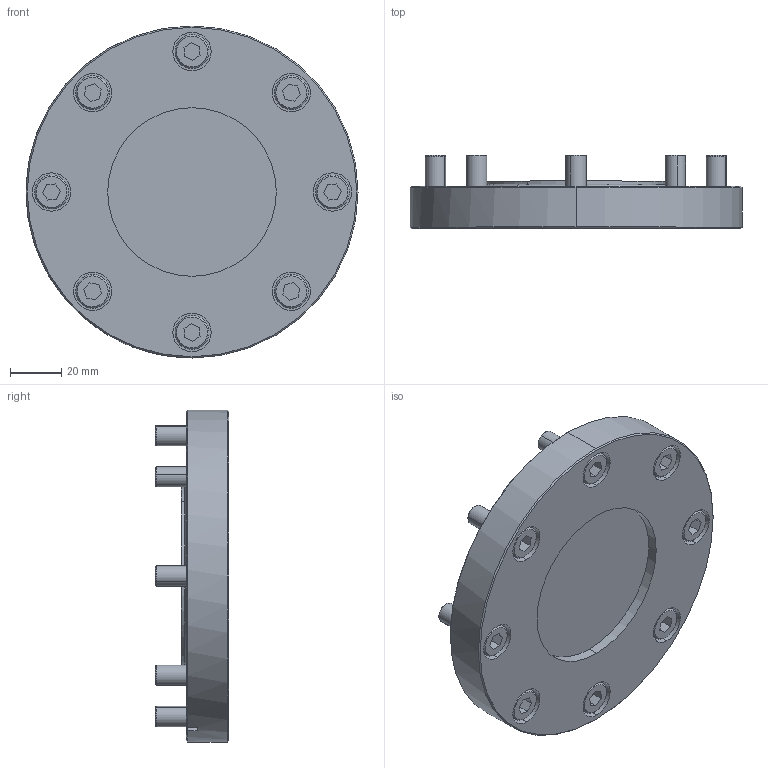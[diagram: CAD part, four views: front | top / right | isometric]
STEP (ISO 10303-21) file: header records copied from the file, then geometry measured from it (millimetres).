
FILE_DESCRIPTION (( 'STEP AP214' ), '1' );
FILE_NAME ('JK063-G-A-V-20200318.STEP', '2020-05-03T05:39:19', ( '' ), ( '' ), 'SwSTEP 2.0', 'SolidWorks 2018', '' );
FILE_SCHEMA (( 'AUTOMOTIVE_DESIGN' ));
Length unit declared in the file: millimetre
Products named in the file (6): COM-001-M8-20_ル遽; JK063-03F; JK063-01E; AS568-233; JK063-G-A-V-20200318; JK063-02B
Assembly tree (12 placements, depth 2):
  JK063-G-A-V-20200318
    JK063-03F
    JK063-01E
    JK063-02B
    COM-001-M8-20_ル遽  x8
    AS568-233
Bounding box: 130 x 28.6 x 130 mm (x, y, z)
Volume: 187010.8 mm3; surface area: 69555.3 mm2
Topology: 12 solids, 12 shells, 257 faces, 566 edges, 358 vertices
Faces by surface type: plane 101, cylinder 82, cone 47, torus 27
Entity records: 4222 total; most frequent: CARTESIAN_POINT 798, DIRECTION 742, ORIENTED_EDGE 600, AXIS2_PLACEMENT_3D 324, EDGE_CURVE 300, VERTEX_POINT 190, CIRCLE 178, EDGE_LOOP 164
